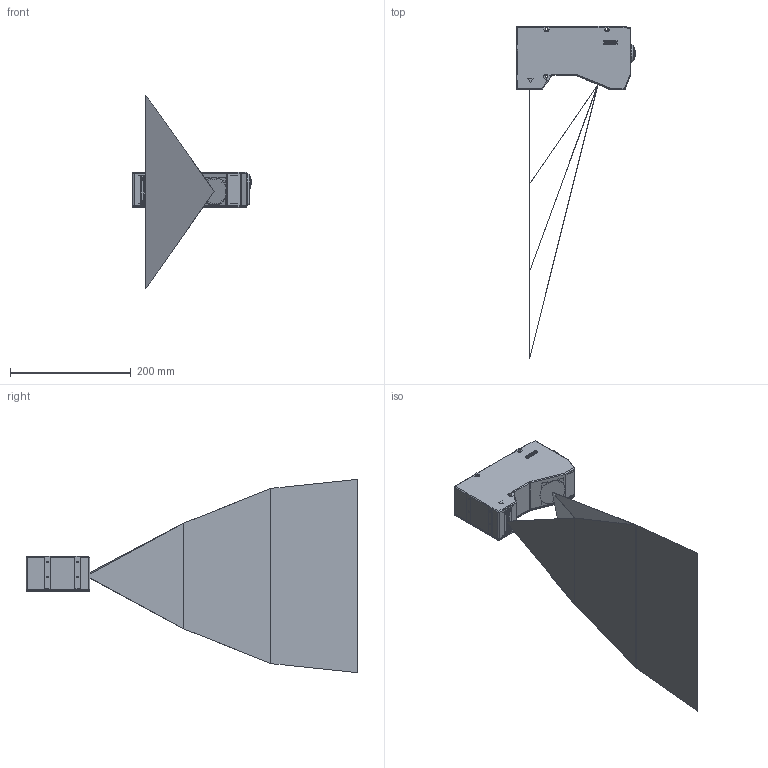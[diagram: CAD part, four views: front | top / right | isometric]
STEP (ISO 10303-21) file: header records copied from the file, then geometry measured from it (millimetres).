
FILE_DESCRIPTION (( 'STEP AP214' ), '1' );
FILE_NAME ('SR7300假蚾尨砩芞.STEP', '2022-02-11T05:53:57', ( '' ), ( '' ), 'SwSTEP 2.0', 'SolidWorks 2020', '' );
FILE_SCHEMA (( 'AUTOMOTIVE_DESIGN' ));
Length unit declared in the file: millimetre
Products named in the file (1): SR7300假蚾尨砩芞
Bounding box: 196.4 x 549.2 x 320 mm (x, y, z)
Volume: 1089140.1 mm3; surface area: 543163.7 mm2
Topology: 3 solids, 4 shells, 777 faces, 2023 edges, 1288 vertices
Faces by surface type: plane 419, cylinder 162, bspline 136, cone 58, torus 2
Entity records: 31972 total; most frequent: CARTESIAN_POINT 13063, ORIENTED_EDGE 4010, DIRECTION 3353, EDGE_CURVE 2005, LINE 1365, VECTOR 1365, VERTEX_POINT 1288, AXIS2_PLACEMENT_3D 994
